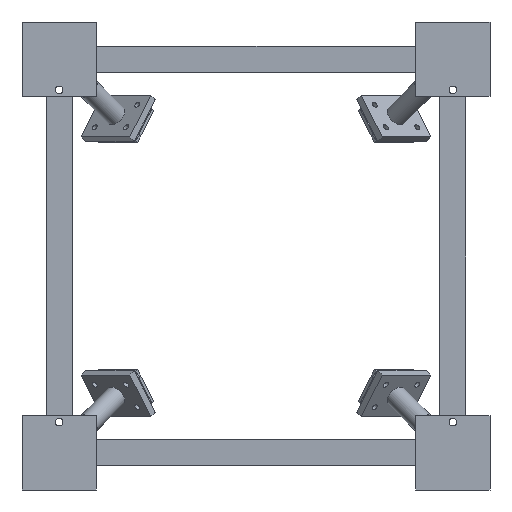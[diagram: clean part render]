
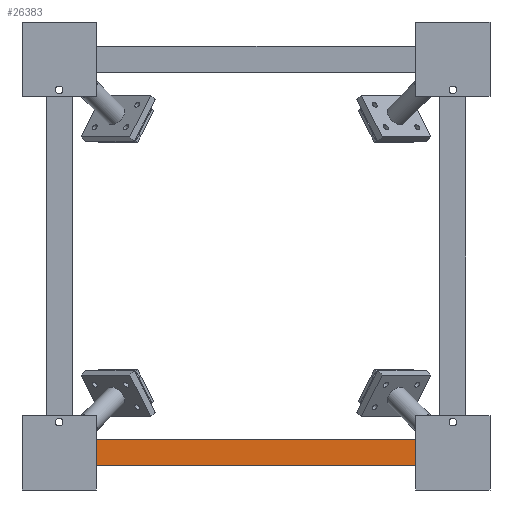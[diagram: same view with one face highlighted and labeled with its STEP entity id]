
A CAD part, front view. The second image highlights one B-rep face of the part: STEP entity #26383.
In plain terms, the highlighted planar face has unit normal (0, -1, 0).
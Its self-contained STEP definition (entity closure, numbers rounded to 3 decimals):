
#26267 = EDGE_CURVE('',#26268,#26270,#26272,.T.);
#26268 = VERTEX_POINT('',#26269);
#26269 = CARTESIAN_POINT('',(-82.,-96.,-96.));
#26270 = VERTEX_POINT('',#26271);
#26271 = CARTESIAN_POINT('',(-82.,-96.,-84.));
#26272 = SURFACE_CURVE('',#26273,(#26277,#26289),.PCURVE_S1.);
#26273 = LINE('',#26274,#26275);
#26274 = CARTESIAN_POINT('',(-82.,-96.,-96.));
#26275 = VECTOR('',#26276,1.);
#26276 = DIRECTION('',(0.,0.,1.));
#26277 = PCURVE('',#26278,#26283);
#26278 = PLANE('',#26279);
#26279 = AXIS2_PLACEMENT_3D('',#26280,#26281,#26282);
#26280 = CARTESIAN_POINT('',(-82.,-96.,-96.));
#26281 = DIRECTION('',(1.,0.,0.));
#26282 = DIRECTION('',(0.,0.,1.));
#26283 = DEFINITIONAL_REPRESENTATION('',(#26284),#26288);
#26284 = LINE('',#26285,#26286);
#26285 = CARTESIAN_POINT('',(0.,0.));
#26286 = VECTOR('',#26287,1.);
#26287 = DIRECTION('',(1.,0.));
#26288 = ( GEOMETRIC_REPRESENTATION_CONTEXT(2) 
PARAMETRIC_REPRESENTATION_CONTEXT() REPRESENTATION_CONTEXT('2D SPACE',''
  ) );
#26289 = PCURVE('',#26290,#26295);
#26290 = PLANE('',#26291);
#26291 = AXIS2_PLACEMENT_3D('',#26292,#26293,#26294);
#26292 = CARTESIAN_POINT('',(-82.,-96.,-96.));
#26293 = DIRECTION('',(0.,1.,0.));
#26294 = DIRECTION('',(0.,0.,1.));
#26295 = DEFINITIONAL_REPRESENTATION('',(#26296),#26300);
#26296 = LINE('',#26297,#26298);
#26297 = CARTESIAN_POINT('',(0.,0.));
#26298 = VECTOR('',#26299,1.);
#26299 = DIRECTION('',(1.,0.));
#26300 = ( GEOMETRIC_REPRESENTATION_CONTEXT(2) 
PARAMETRIC_REPRESENTATION_CONTEXT() REPRESENTATION_CONTEXT('2D SPACE',''
  ) );
#26318 = PLANE('',#26319);
#26319 = AXIS2_PLACEMENT_3D('',#26320,#26321,#26322);
#26320 = CARTESIAN_POINT('',(-82.,-96.,-96.));
#26321 = DIRECTION('',(0.,0.,1.));
#26322 = DIRECTION('',(1.,0.,0.));
#26372 = PLANE('',#26373);
#26373 = AXIS2_PLACEMENT_3D('',#26374,#26375,#26376);
#26374 = CARTESIAN_POINT('',(-82.,-96.,-84.));
#26375 = DIRECTION('',(0.,0.,1.));
#26376 = DIRECTION('',(1.,0.,0.));
#26383 = ADVANCED_FACE('',(#26384),#26290,.F.);
#26384 = FACE_BOUND('',#26385,.F.);
#26385 = EDGE_LOOP('',(#26386,#26409,#26410,#26433));
#26386 = ORIENTED_EDGE('',*,*,#26387,.F.);
#26387 = EDGE_CURVE('',#26268,#26388,#26390,.T.);
#26388 = VERTEX_POINT('',#26389);
#26389 = CARTESIAN_POINT('',(82.,-96.,-96.));
#26390 = SURFACE_CURVE('',#26391,(#26395,#26402),.PCURVE_S1.);
#26391 = LINE('',#26392,#26393);
#26392 = CARTESIAN_POINT('',(-82.,-96.,-96.));
#26393 = VECTOR('',#26394,1.);
#26394 = DIRECTION('',(1.,0.,0.));
#26395 = PCURVE('',#26290,#26396);
#26396 = DEFINITIONAL_REPRESENTATION('',(#26397),#26401);
#26397 = LINE('',#26398,#26399);
#26398 = CARTESIAN_POINT('',(0.,0.));
#26399 = VECTOR('',#26400,1.);
#26400 = DIRECTION('',(0.,1.));
#26401 = ( GEOMETRIC_REPRESENTATION_CONTEXT(2) 
PARAMETRIC_REPRESENTATION_CONTEXT() REPRESENTATION_CONTEXT('2D SPACE',''
  ) );
#26402 = PCURVE('',#26318,#26403);
#26403 = DEFINITIONAL_REPRESENTATION('',(#26404),#26408);
#26404 = LINE('',#26405,#26406);
#26405 = CARTESIAN_POINT('',(0.,0.));
#26406 = VECTOR('',#26407,1.);
#26407 = DIRECTION('',(1.,0.));
#26408 = ( GEOMETRIC_REPRESENTATION_CONTEXT(2) 
PARAMETRIC_REPRESENTATION_CONTEXT() REPRESENTATION_CONTEXT('2D SPACE',''
  ) );
#26409 = ORIENTED_EDGE('',*,*,#26267,.T.);
#26410 = ORIENTED_EDGE('',*,*,#26411,.T.);
#26411 = EDGE_CURVE('',#26270,#26412,#26414,.T.);
#26412 = VERTEX_POINT('',#26413);
#26413 = CARTESIAN_POINT('',(82.,-96.,-84.));
#26414 = SURFACE_CURVE('',#26415,(#26419,#26426),.PCURVE_S1.);
#26415 = LINE('',#26416,#26417);
#26416 = CARTESIAN_POINT('',(-82.,-96.,-84.));
#26417 = VECTOR('',#26418,1.);
#26418 = DIRECTION('',(1.,0.,0.));
#26419 = PCURVE('',#26290,#26420);
#26420 = DEFINITIONAL_REPRESENTATION('',(#26421),#26425);
#26421 = LINE('',#26422,#26423);
#26422 = CARTESIAN_POINT('',(12.,0.));
#26423 = VECTOR('',#26424,1.);
#26424 = DIRECTION('',(0.,1.));
#26425 = ( GEOMETRIC_REPRESENTATION_CONTEXT(2) 
PARAMETRIC_REPRESENTATION_CONTEXT() REPRESENTATION_CONTEXT('2D SPACE',''
  ) );
#26426 = PCURVE('',#26372,#26427);
#26427 = DEFINITIONAL_REPRESENTATION('',(#26428),#26432);
#26428 = LINE('',#26429,#26430);
#26429 = CARTESIAN_POINT('',(0.,0.));
#26430 = VECTOR('',#26431,1.);
#26431 = DIRECTION('',(1.,0.));
#26432 = ( GEOMETRIC_REPRESENTATION_CONTEXT(2) 
PARAMETRIC_REPRESENTATION_CONTEXT() REPRESENTATION_CONTEXT('2D SPACE',''
  ) );
#26433 = ORIENTED_EDGE('',*,*,#26434,.F.);
#26434 = EDGE_CURVE('',#26388,#26412,#26435,.T.);
#26435 = SURFACE_CURVE('',#26436,(#26440,#26447),.PCURVE_S1.);
#26436 = LINE('',#26437,#26438);
#26437 = CARTESIAN_POINT('',(82.,-96.,-96.));
#26438 = VECTOR('',#26439,1.);
#26439 = DIRECTION('',(0.,0.,1.));
#26440 = PCURVE('',#26290,#26441);
#26441 = DEFINITIONAL_REPRESENTATION('',(#26442),#26446);
#26442 = LINE('',#26443,#26444);
#26443 = CARTESIAN_POINT('',(0.,164.));
#26444 = VECTOR('',#26445,1.);
#26445 = DIRECTION('',(1.,0.));
#26446 = ( GEOMETRIC_REPRESENTATION_CONTEXT(2) 
PARAMETRIC_REPRESENTATION_CONTEXT() REPRESENTATION_CONTEXT('2D SPACE',''
  ) );
#26447 = PCURVE('',#26448,#26453);
#26448 = PLANE('',#26449);
#26449 = AXIS2_PLACEMENT_3D('',#26450,#26451,#26452);
#26450 = CARTESIAN_POINT('',(82.,-96.,-96.));
#26451 = DIRECTION('',(1.,0.,0.));
#26452 = DIRECTION('',(0.,0.,1.));
#26453 = DEFINITIONAL_REPRESENTATION('',(#26454),#26458);
#26454 = LINE('',#26455,#26456);
#26455 = CARTESIAN_POINT('',(0.,0.));
#26456 = VECTOR('',#26457,1.);
#26457 = DIRECTION('',(1.,0.));
#26458 = ( GEOMETRIC_REPRESENTATION_CONTEXT(2) 
PARAMETRIC_REPRESENTATION_CONTEXT() REPRESENTATION_CONTEXT('2D SPACE',''
  ) );
